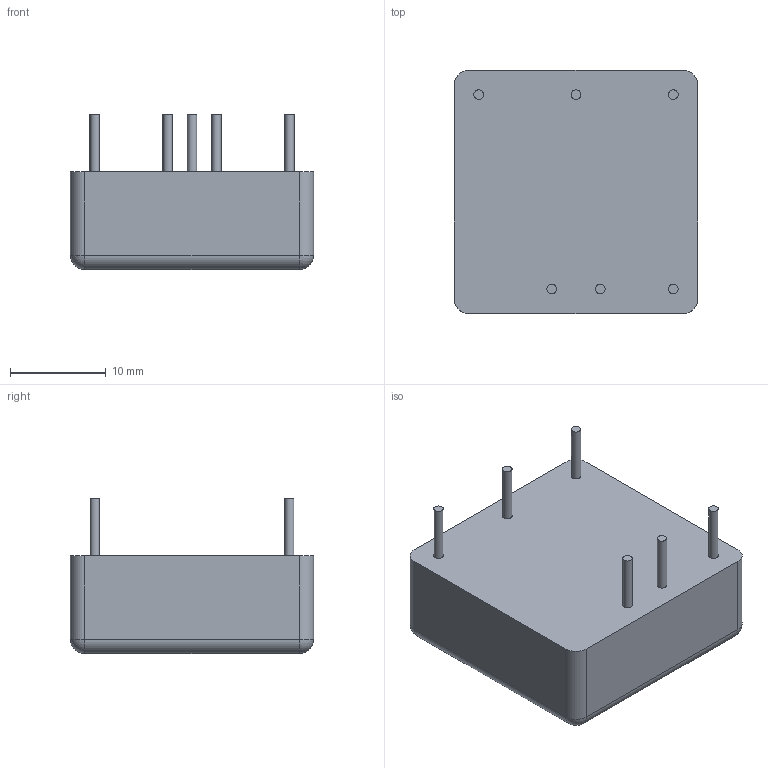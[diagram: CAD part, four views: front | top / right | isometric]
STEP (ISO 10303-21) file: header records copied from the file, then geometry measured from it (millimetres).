
FILE_DESCRIPTION(/* description */ (''),/* implementation_level */ '2;1');
FILE_NAME(/* name */ 'C:\Users\Calliope\Desktop\THL 30WI.stp',/* time_stamp */ '2022-08-11T16:23:21+08:00',/* author */ ('Calliope'),/* organization */ (''),/* preprocessor_version */ 'ST-DEVELOPER v16.1',/* originating_system */ 'Autodesk Inventor 2016',/* authorisation */ '');
FILE_SCHEMA (('AUTOMOTIVE_DESIGN { 1 0 10303 214 3 1 1 }'));
Length unit declared in the file: millimetre
Products named in the file (1): THL 30WI
Bounding box: 25.4 x 25.4 x 16.2 mm (x, y, z)
Volume: 6542.4 mm3; surface area: 2344.9 mm2
Topology: 1 solids, 1 shells, 30 faces, 54 edges, 32 vertices
Faces by surface type: cylinder 14, plane 12, sphere 4
Full cylindrical faces by diameter (mm): 1 x6
Entity records: 724 total; most frequent: DIRECTION 138, CARTESIAN_POINT 111, ORIENTED_EDGE 96, AXIS2_PLACEMENT_3D 59, EDGE_CURVE 48, EDGE_LOOP 42, VERTEX_POINT 32, FACE_OUTER_BOUND 30
